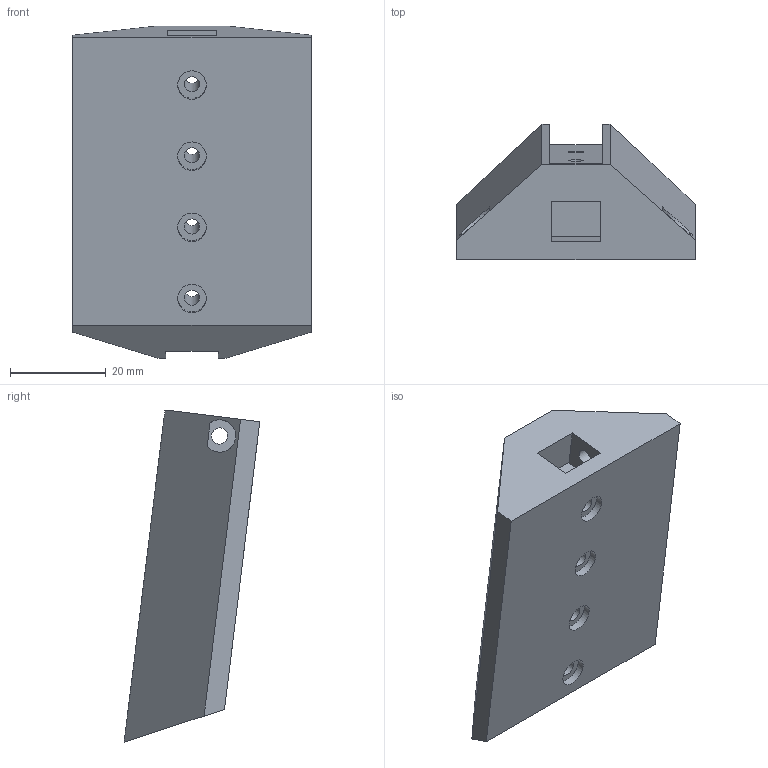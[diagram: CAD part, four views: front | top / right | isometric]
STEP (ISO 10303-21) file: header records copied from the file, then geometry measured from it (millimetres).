
FILE_DESCRIPTION(('Open CASCADE Model'),'2;1');
FILE_NAME('Open CASCADE Shape Model','2026-10-16T05:25:09',('Author'),( 'Open CASCADE'),'Open CASCADE STEP processor 7.9','Open CASCADE 7.9' ,'Unknown');
FILE_SCHEMA(('AUTOMOTIVE_DESIGN { 1 0 10303 214 1 1 1 1 }'));
Length unit declared in the file: millimetre
Products named in the file (1): Open CASCADE STEP translator 7.9 28
Bounding box: 50 x 28.38 x 69.48 mm (x, y, z)
Volume: 41363.8 mm3; surface area: 10985.5 mm2
Topology: 1 solids, 1 shells, 35 faces, 80 edges, 54 vertices
Faces by surface type: plane 23, cylinder 12
Full cylindrical faces by diameter (mm): 3.2 x4, 3.4 x2, 6 x4
Entity records: 2141 total; most frequent: CARTESIAN_POINT 436, DIRECTION 325, LINE 184, VECTOR 184, ORIENTED_EDGE 160, PCURVE 160, DEFINITIONAL_REPRESENTATION 160, EDGE_CURVE 80
